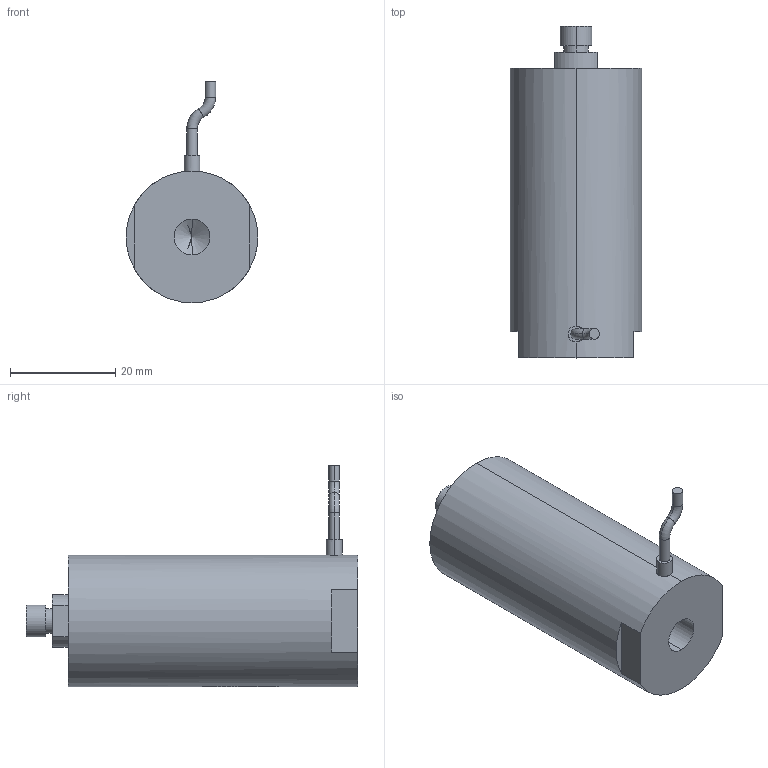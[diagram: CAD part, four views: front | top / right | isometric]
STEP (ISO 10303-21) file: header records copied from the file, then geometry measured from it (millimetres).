
FILE_DESCRIPTION (( 'STEP AP203' ), '1' );
FILE_NAME ('ﾍ篦ﾝﾎﾆﾊｽ40VS25.STEP', '2021-07-08T08:01:20', ( 'ﾎ｢ﾈ橆ﾃｻｧ' ), ( 'ﾎ｢ﾈ晥ｫﾋｾ' ), 'SwSTEP 2.0', 'SolidWorks 2016', '' );
FILE_SCHEMA (( 'CONFIG_CONTROL_DESIGN' ));
Length unit declared in the file: millimetre
Products named in the file (1): 俋蹟恇宒40VS25
Bounding box: 25 x 63 x 42.06 mm (x, y, z)
Volume: 26870.3 mm3; surface area: 5863.7 mm2
Topology: 1 solids, 1 shells, 943 faces, 2557 edges, 1697 vertices
Faces by surface type: bspline 511, plane 318, cylinder 108, torus 4, cone 2
Entity records: 44304 total; most frequent: CARTESIAN_POINT 25085, ORIENTED_EDGE 5102, EDGE_CURVE 2551, DIRECTION 2006, VERTEX_POINT 1695, B_SPLINE_CURVE_WITH_KNOTS 1693, EDGE_LOOP 1028, ADVANCED_FACE 943
